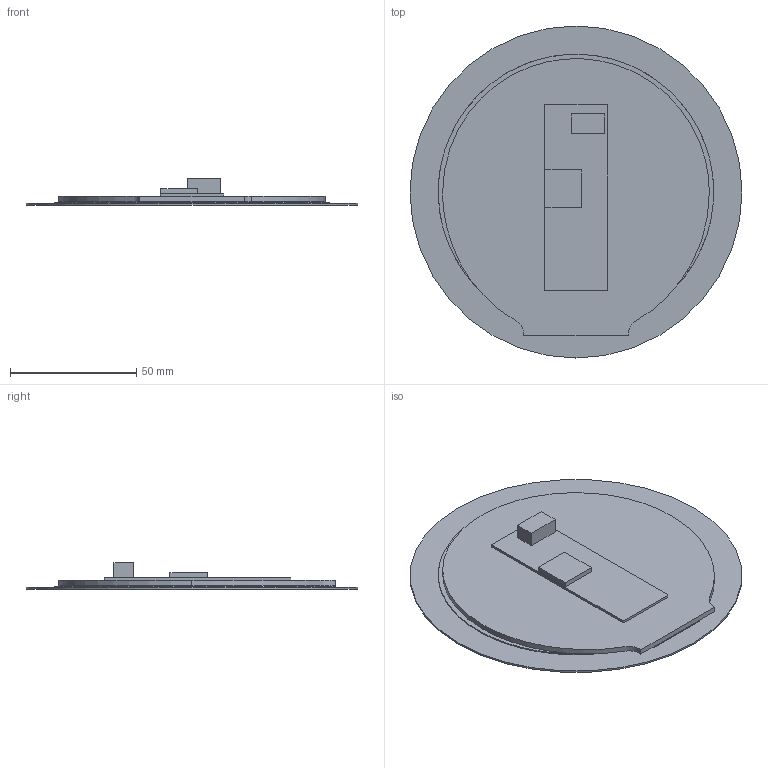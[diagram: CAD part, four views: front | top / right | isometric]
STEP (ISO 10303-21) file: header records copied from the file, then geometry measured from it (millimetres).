
FILE_DESCRIPTION(/* description */ (''),/* implementation_level */ '2;1');
FILE_NAME(/* name */ 'VTc040C02CG.stp',/* time_stamp */ '2025-09-02T10:24:46+08:00',/* author */ (''),/* organization */ (''),/* preprocessor_version */ 'ST-DEVELOPER v16',/* originating_system */ 'SIEMENS PLM Software NX 10.0',/* authorisation */ '');
FILE_SCHEMA (('AP203_CONFIGURATION_CONTROLLED_3D_DESIGN_OF_MECHANICAL_PARTS_AND_ASSEMBLIES_MIM_LF { 1 0 10303 403 2 1 2}'));
Length unit declared in the file: millimetre
Products named in the file (1): VTc040C02CG
Bounding box: 131.52 x 131.52 x 10.45 mm (x, y, z)
Volume: 36180.2 mm3; surface area: 86791.9 mm2
Topology: 7 solids, 7 shells, 34 faces, 60 edges, 40 vertices
Faces by surface type: plane 25, extrusion 5, cylinder 4
Full cylindrical faces by diameter (mm): 102.12 x1, 131.52 x1
Entity records: 1198 total; most frequent: CARTESIAN_POINT 434, ORIENTED_EDGE 116, DIRECTION 91, EDGE_CURVE 58, VERTEX_POINT 40, EDGE_LOOP 36, ADVANCED_FACE 34, AXIS2_PLACEMENT_3D 34
